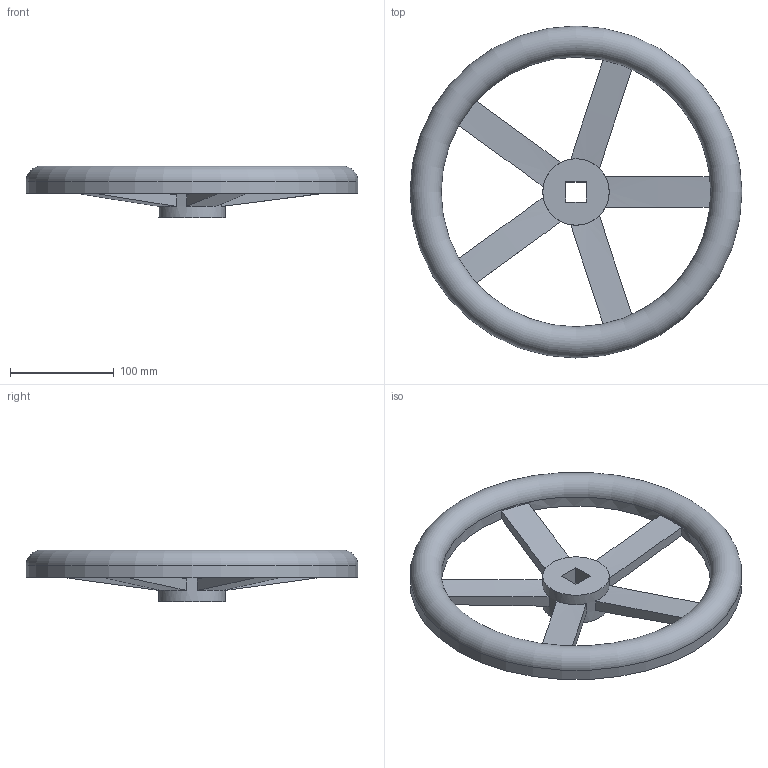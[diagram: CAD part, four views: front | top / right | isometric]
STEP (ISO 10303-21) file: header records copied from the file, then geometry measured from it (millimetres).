
FILE_DESCRIPTION( ( 'STEP AP203' ), '1' );
FILE_NAME( 'p:/temp/worker_157/temp/exporttempdir_3756_18_DLIOC/format_0/5007613 7800 DN125-150 (400).stp', '2021-01-13T08:48:06', ( 'License CC BY-ND 4.0' ), ( 'CADENAS' ), ' ', 'PARTsolutions', ' ' );
FILE_SCHEMA( ( 'CONFIG_CONTROL_DESIGN' ) );
Length unit declared in the file: millimetre
Products named in the file (1): _5007613 7800 DN125-150 (400)
Bounding box: 320 x 320 x 49.97 mm (x, y, z)
Volume: 449493.7 mm3; surface area: 173326.4 mm2
Topology: 1 solids, 1 shells, 35 faces, 97 edges, 60 vertices
Faces by surface type: plane 18, cone 10, cylinder 5, torus 2
Full cylindrical faces by diameter (mm): 64 x1, 260 x1, 267.2 x1, 312.8 x1, 320 x1
Entity records: 1254 total; most frequent: CARTESIAN_POINT 359, DIRECTION 172, ORIENTED_EDGE 172, EDGE_CURVE 86, AXIS2_PLACEMENT_3D 70, VERTEX_POINT 57, EDGE_LOOP 51, FACE_OUTER_BOUND 42
